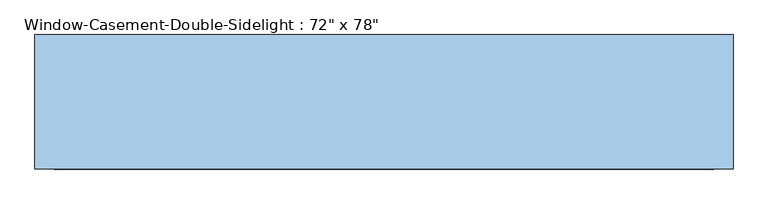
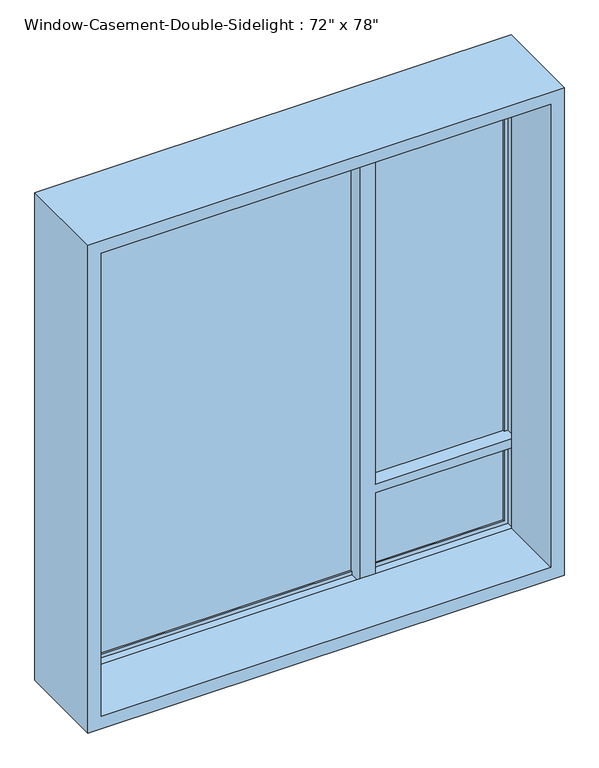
"""IFC4 building model written with IfcOpenShell, lengths in millimetres: window geometry."""

from ifc_helpers import new_model, si_unit, frame, origin, place, context, project, spatial, polyline, outline, extrude, faceted_brep, source, transform, mapped, element, save


def window_7b40078c(model_context):
    return source(origin(), model_context, "Body", "SolidModel", [
        faceted_brep([(-863.6, 134.9375, 2844.8), (-863.6, 176.2125, 2844.8), (863.6, 176.2125, 2844.8), (863.6, 134.9375, 2844.8), (340.3203125, 134.9375, 2844.8), (330.2, 134.9375, 2844.8), (330.2, 173.0375, 2844.8), (279.4, 173.0375, 2844.8), (279.4, 134.9375, 2844.8), (-878.8796875, 84.1375, 2860.0796875), (-878.8796875, 134.9375, 2860.0796875), (878.8796875, 134.9375, 2860.0796875), (878.8796875, 84.1375, 2860.0796875), (-863.6, -176.2125, 2844.8), (-863.6, 84.1375, 2844.8), (279.4, 84.1375, 2844.8), (340.3203125, 84.1375, 2844.8), (863.6, 84.1375, 2844.8), (863.6, -176.2125, 2844.8), (-914.4, 176.2125, 2895.6), (-914.4, -176.2125, 2895.6), (914.4, -176.2125, 2895.6), (914.4, 176.2125, 2895.6), (863.6, 176.2125, 965.2), (863.6, 134.9375, 965.2), (863.6, 134.9375, 1292.8798438), (863.6, 173.0375, 1292.8798438), (863.6, 173.0375, 1328.4001563), (863.6, 134.9375, 1328.4001563), (878.8796875, 134.9375, 1328.4001563), (878.8796875, 84.1375, 1328.4001563), (878.8796875, 134.9375, 949.9203125), (878.8796875, 84.1375, 949.9203125), (878.8796875, 84.1375, 1292.8798438), (878.8796875, 134.9375, 1292.8798438), (863.6, 84.1375, 1328.4001563), (863.6, 84.1375, 1292.8798438), (863.6, 84.1375, 965.2), (863.6, -176.2125, 965.2), (914.4, -176.2125, 914.4), (914.4, 176.2125, 914.4), (-863.6, 176.2125, 965.2), (-863.6, 134.9375, 965.2), (279.4, 134.9375, 965.2), (279.4, 173.0375, 965.2), (330.2, 173.0375, 965.2), (330.2, 134.9375, 965.2), (340.3203125, 134.9375, 965.2), (340.3203125, 134.9375, 949.9203125), (340.3203125, 84.1375, 949.9203125), (-878.8796875, 134.9375, 949.9203125), (-878.8796875, 84.1375, 949.9203125), (279.4, 84.1375, 949.9203125), (279.4, 134.9375, 949.9203125), (340.3203125, 84.1375, 965.2), (279.4, 84.1375, 965.2), (-863.6, 84.1375, 965.2), (-863.6, -176.2125, 965.2), (-914.4, -176.2125, 914.4), (-914.4, 176.2125, 914.4), (330.2, 134.9375, 2844.8), (330.2, 173.0375, 1328.4001563), (330.2, 173.0375, 1292.8798438), (340.3203125, 134.9375, 1292.8798438), (340.3203125, 84.1375, 1292.8798438), (340.3203125, 84.1375, 1328.4001563), (340.3203125, 134.9375, 1328.4001563), (330.2, 134.9375, 1328.4001563), (330.2, 134.9375, 1292.8798438)], [[[0, 1, 2, 3, 4, 5, 6, 7, 8]], [[9, 10, 11, 12]], [[13, 14, 15, 16, 17, 18]], [[19, 20, 21, 22]], [[3, 2, 23, 24, 25, 26, 27, 28]], [[12, 11, 29, 30]], [[31, 32, 33, 34]], [[18, 17, 35, 36, 37, 38]], [[22, 21, 39, 40]], [[24, 23, 41, 42, 43, 44, 45, 46, 47]], [[32, 31, 48, 49]], [[50, 51, 52, 53]], [[38, 37, 54, 55, 56, 57]], [[40, 39, 58, 59]], [[1, 0, 42, 41]], [[48, 31, 34, 25, 24, 47]], [[11, 10, 50, 53, 43, 42, 0, 8, 60, 4, 3, 28, 29]], [[10, 9, 51, 50]], [[9, 12, 30, 35, 17, 16, 15, 14, 56, 55, 52, 51]], [[54, 37, 36, 33, 32, 49]], [[14, 13, 57, 56]], [[21, 20, 58, 39], [13, 18, 38, 57]], [[20, 19, 59, 58]], [[19, 22, 40, 59], [2, 1, 41, 23]], [[44, 7, 6, 61, 27, 26, 62, 45]], [[55, 15, 8, 7, 44, 43, 53, 52]], [[49, 48, 47, 63, 64, 54]], [[4, 16, 65, 66]], [[6, 5, 67, 61]], [[46, 45, 62, 68]], [[36, 64, 63, 68, 62, 26, 25, 34, 33]], [[65, 35, 30, 29, 28, 27, 61, 67, 66]], [[16, 4, 60, 8, 15]], [[15, 55, 54, 64, 36, 35, 65, 16]], [[5, 4, 66, 67]], [[47, 46, 68, 63]]]),
        extrude(outline(polyline([(889.0, 147.6375), (889.0, 141.2875), (330.2, 141.2875), (330.2, 147.6375), (889.0, 147.6375)])), frame((0.0, 0.0, 1328.4001563), z_axis=(0.0, 0.0, 1.0), x_axis=(1.0, 0.0, 0.0)), (0.0, 0.0, 1.0), 1541.7998438),
        extrude(outline(polyline([(889.0, 160.3375), (889.0, 153.9875), (330.2, 153.9875), (330.2, 160.3375), (889.0, 160.3375)])), frame((0.0, 0.0, 1328.4001563), z_axis=(0.0, 0.0, 1.0), x_axis=(1.0, 0.0, 0.0)), (0.0, 0.0, 1.0), 1541.7998438),
        extrude(outline(polyline([(279.4, 160.3375), (279.4, 153.9875), (-863.6, 153.9875), (-863.6, 160.3375), (279.4, 160.3375)])), frame((0.0, 0.0, 949.9203125), z_axis=(0.0, 0.0, 1.0), x_axis=(1.0, 0.0, 0.0)), (0.0, 0.0, 1.0), 1920.2796875),
        extrude(outline(polyline([(279.4, 147.6375), (279.4, 141.2875), (-863.6, 141.2875), (-863.6, 147.6375), (279.4, 147.6375)])), frame((0.0, 0.0, 949.9203125), z_axis=(0.0, 0.0, 1.0), x_axis=(1.0, 0.0, 0.0)), (0.0, 0.0, 1.0), 1920.2796875),
        extrude(outline(polyline([(889.0, 160.3375), (330.2, 160.3375), (330.2, 173.0375), (889.0, 173.0375), (889.0, 160.3375)])), frame((0.0, 0.0, 949.9203125), z_axis=(0.0, 0.0, 1.0), x_axis=(1.0, 0.0, 0.0)), (0.0, 0.0, 1.0), 342.9595312),
        extrude(outline(polyline([(889.0, 147.6375), (889.0, 141.2875), (330.2, 141.2875), (330.2, 147.6375), (889.0, 147.6375)])), frame((0.0, 0.0, 949.9203125), z_axis=(0.0, 0.0, 1.0), x_axis=(1.0, 0.0, 0.0)), (0.0, 0.0, 1.0), 342.9595312),
    ])


if __name__ == "__main__":
    model = new_model("IFC4")
    model_context = context("Model", 3, world=origin())
    ifc_project = project(units=[si_unit("LENGTHUNIT", "METRE", prefix="MILLI")], contexts=[model_context])
    site = spatial("IfcSite", under=ifc_project)
    building = spatial("IfcBuilding", under=site)
    placement = place(None, origin())
    window_shape = window_7b40078c(model_context)
    element("IfcWindow", 1, ObjectType="Window-Casement-Double-Sidelight : 72\" x 78\"", at=placement, inside=building, context=model_context, shape_type="MappedRepresentation", body=[
        mapped(window_shape, transform((0.0, 0.0, 0.0), x_axis=(1.0, 0.0, 0.0), y_axis=(0.0, 1.0, 0.0), z_axis=(0.0, 0.0, 1.0))),
    ])
    save(model, "model.ifc")
